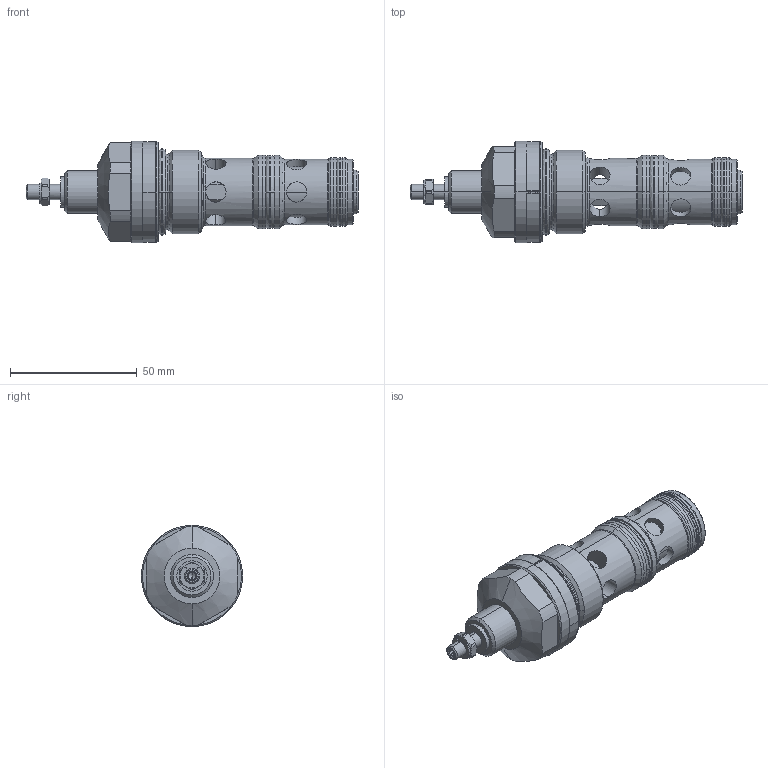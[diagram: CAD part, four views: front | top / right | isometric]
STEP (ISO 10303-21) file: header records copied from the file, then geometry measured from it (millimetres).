
FILE_DESCRIPTION (( 'STEP AP214' ), '1' );
FILE_NAME ('QDSPM33.STEP', '2017-03-24T13:26:29', ( '' ), ( '' ), 'SwSTEP 2.0', 'SolidWorks 2016', '' );
FILE_SCHEMA (( 'AUTOMOTIVE_DESIGN' ));
Length unit declared in the file: millimetre
Products named in the file (1): QDSPM33
Bounding box: 131.1 x 40 x 40 mm (x, y, z)
Volume: 74206.8 mm3; surface area: 20364 mm2
Topology: 9 solids, 9 shells, 352 faces, 821 edges, 503 vertices
Faces by surface type: cylinder 143, plane 88, cone 59, torus 38, bspline 24
Entity records: 15624 total; most frequent: CARTESIAN_POINT 3719, DIRECTION 1769, ORIENTED_EDGE 1634, EDGE_CURVE 817, AXIS2_PLACEMENT_3D 755, VERTEX_POINT 503, CIRCLE 426, EDGE_LOOP 396
